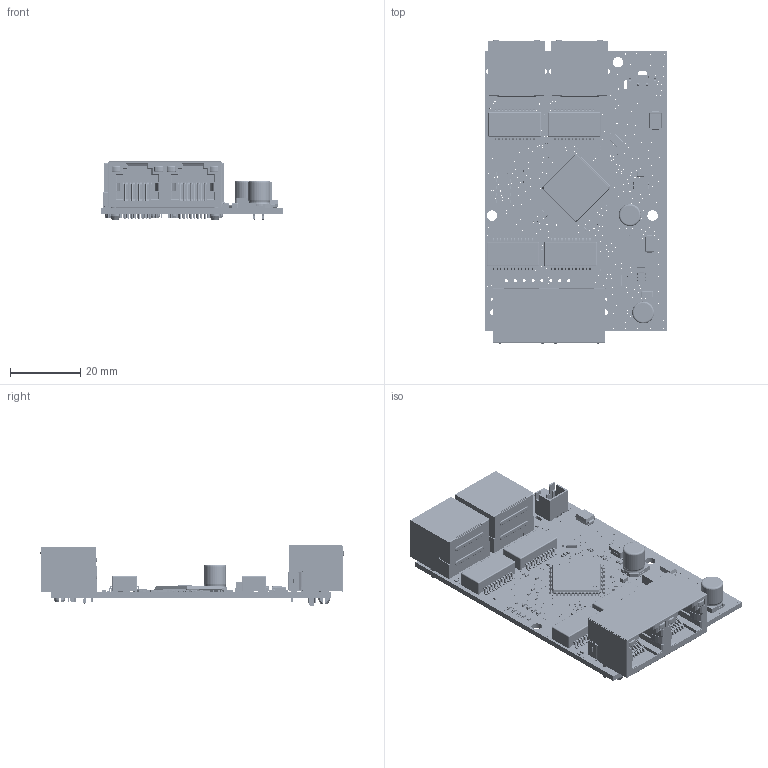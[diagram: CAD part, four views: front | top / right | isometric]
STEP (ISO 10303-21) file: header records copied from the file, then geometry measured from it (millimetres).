
FILE_DESCRIPTION(('Designed by EasyEDA Pro'),'2;1');
FILE_NAME('Open CASCADE Shape Model','2024-07-10T22:07:16',('Author'),( 'Open CASCADE'),'Open CASCADE STEP processor 7.8','Open CASCADE 7.8' ,'Unknown');
FILE_SCHEMA(('AUTOMOTIVE_DESIGN { 1 0 10303 214 1 1 1 1 }'));
Length unit declared in the file: millimetre
Products named in the file (140): PCBModel; TopTrack; BottomTrack; Board; 8Tci-C19; 0805; SOLID; 8Tci-C1; 8Tci-C3; 1206; 8Tci-R7; 8Tci-C10; 8Tci-C100; C0402; 8Tci-C101; 8Tci-C102; 8Tci-C103; 8Tci-C104; 8Tci-C105; 8Tci-C106; 8Tci-C107; 8Tci-C108; 8Tci-C109; 8Tci-C110; 8Tci-C112; 8Tci-C113; 8Tci-C116; 8Tci-C117; 8Tci-C127; 8Tci-C130; 8Tci-C2; 8Tci-C34; 0402; 8Tci-C36; 8Tci-C37; 8Tci-C39; 8Tci-C4; 8Tci-C5; 8Tci-C6; 8Tci-C7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
Assembly tree (212 placements, depth 4):
  PCBModel
    TopTrack
    BottomTrack
    Board
    8Tci-C19
      0805
        SOLID
    8Tci-C1
      0805
        SOLID
    8Tci-C3
      1206
        SOLID
    8Tci-R7
      1206
        SOLID
    8Tci-C10
      1206
        SOLID
    8Tci-C100
      C0402
        SOLID
    8Tci-C101
      C0402
        SOLID
    8Tci-C102
      C0402
        SOLID
    8Tci-C103
      C0402
        SOLID
    8Tci-C104
      C0402
        SOLID
    8Tci-C105
      C0402
        SOLID
    8Tci-C106
      C0402
        SOLID
    8Tci-C107
      C0402
        SOLID
    8Tci-C108
      C0402
        SOLID
    8Tci-C109
      C0402
        SOLID
    8Tci-C110
      C0402
        SOLID
    8Tci-C112
      C0402
        SOLID
    8Tci-C113
      C0402
        SOLID
    8Tci-C116
      C0402
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Bounding box: 51.97 x 86.63 x 17.43 mm (x, y, z)
Volume: 17088.8 mm3; surface area: 29842.5 mm2
Topology: 260 solids, 260 shells, 37190 faces, 100239 edges, 65342 vertices
Faces by surface type: plane 20586, bspline 9991, cylinder 5690, sphere 638, torus 196, extrusion 73, cone 16
Entity records: 491024 total; most frequent: CARTESIAN_POINT 114820, ORIENTED_EDGE 64652, DIRECTION 51826, EDGE_CURVE 32326, VECTOR 21564, LINE 21491, VERTEX_POINT 21308, AXIS2_PLACEMENT_3D 15131
